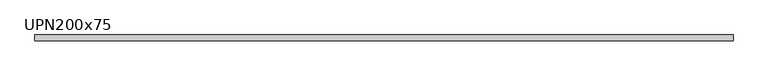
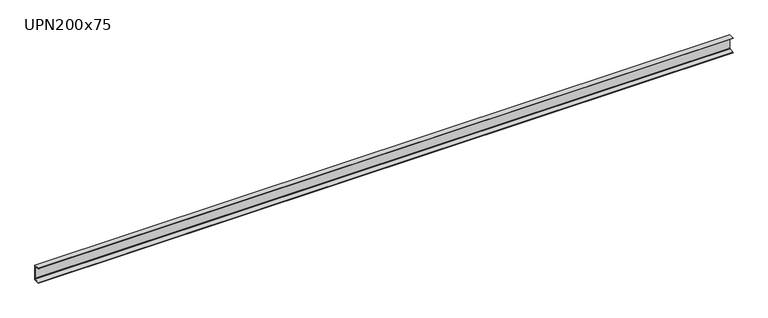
"""IFC4 building model written with IfcOpenShell, lengths in millimetres: beam geometry, M_MC Shapes : UPN200x75."""

from ifc_helpers import new_model, si_unit, point, frame, frame_2d, origin, place, context, project, spatial, polyline, circle_curve, trimmed, segment, composite_curve, outline, extrude, source, transform, mapped, element, save


def upn200x75_3e587e5f(model_context):
    return source(origin(), model_context, "Body", "SweptSolid", [
        extrude(outline(composite_curve([segment(polyline([(10.9, 100.0), (10.9, -100.0), (-64.1, -100.0), (-64.1, -99.0253247)]), True, "CONTINUOUS"), segment(trimmed(circle_curve(frame_2d((-60.15, -99.0253247)), 3.95), [point((-64.1, -99.0253247))], [point((-60.7993773, -95.1290689))], False, "CARTESIAN"), True, "CONTINUOUS"), segment(polyline([(-60.7993773, -95.1290689), (-0.2512455, -85.0376935)]), True, "CONTINUOUS"), segment(trimmed(circle_curve(frame_2d((-1.55, -77.2451819)), 7.9), [point((-0.2512455, -85.0376935))], [point((6.35, -77.2451819))], True, "CARTESIAN"), True, "CONTINUOUS"), segment(polyline([(6.35, -77.2451819), (6.35, 77.2451819)]), True, "CONTINUOUS"), segment(trimmed(circle_curve(frame_2d((-1.55, 77.2451819)), 7.9), [point((6.35, 77.2451819))], [point((-0.2512455, 85.0376935))], True, "CARTESIAN"), True, "CONTINUOUS"), segment(polyline([(-0.2512455, 85.0376935), (-60.7993773, 95.1290689)]), True, "CONTINUOUS"), segment(trimmed(circle_curve(frame_2d((-60.15, 99.0253247)), 3.95), [point((-60.7993773, 95.1290689))], [point((-64.1, 99.0253247))], False, "CARTESIAN"), True, "CONTINUOUS"), segment(polyline([(-64.1, 99.0253247), (-64.1, 100.0), (10.9, 100.0)]), True, "CONTINUOUS")], self_intersect=False)), frame((-4480.05, 0.0, 0.0), z_axis=(1.0, 0.0, 0.0), x_axis=(0.0, 1.0, 0.0)), (0.0, 0.0, 1.0), 8960.1),
    ])


if __name__ == "__main__":
    model = new_model("IFC4")
    model_context = context("Model", 3, world=origin())
    ifc_project = project(units=[si_unit("LENGTHUNIT", "METRE", prefix="MILLI")], contexts=[model_context])
    site = spatial("IfcSite", under=ifc_project)
    building = spatial("IfcBuilding", under=site)
    placement = place(None, origin())
    upn200x75_shape = upn200x75_3e587e5f(model_context)
    element("IfcBeam", 1, ObjectType="M_MC Shapes : UPN200x75", at=placement, inside=building, context=model_context, shape_type="MappedRepresentation", body=[
        mapped(upn200x75_shape, transform((0.0, 0.0, 0.0), x_axis=(1.0, 0.0, 0.0), y_axis=(0.0, 1.0, 0.0), z_axis=(0.0, 0.0, 1.0))),
    ])
    save(model, "model.ifc")
